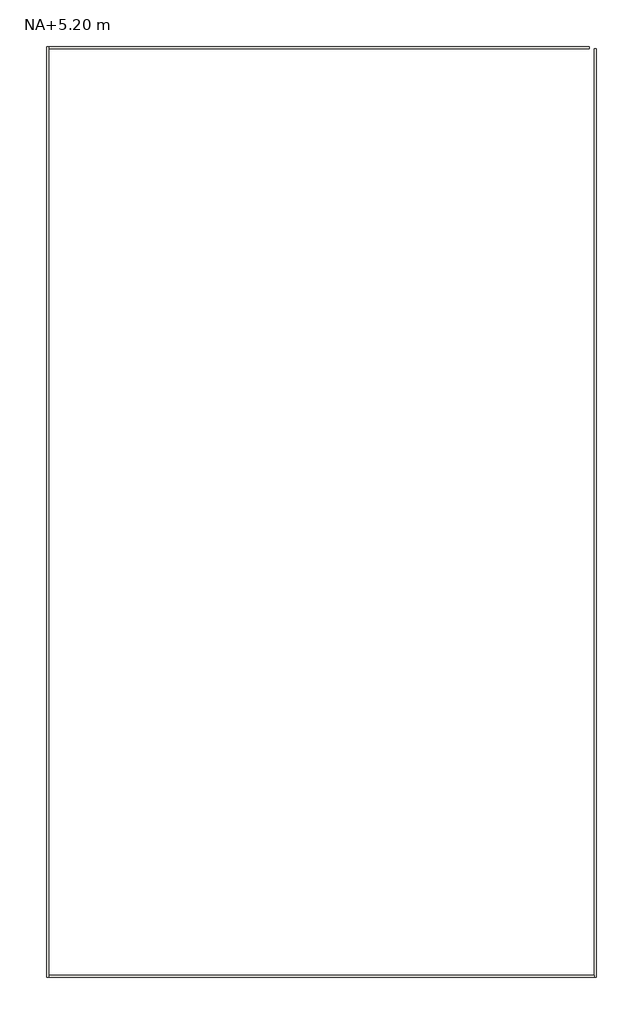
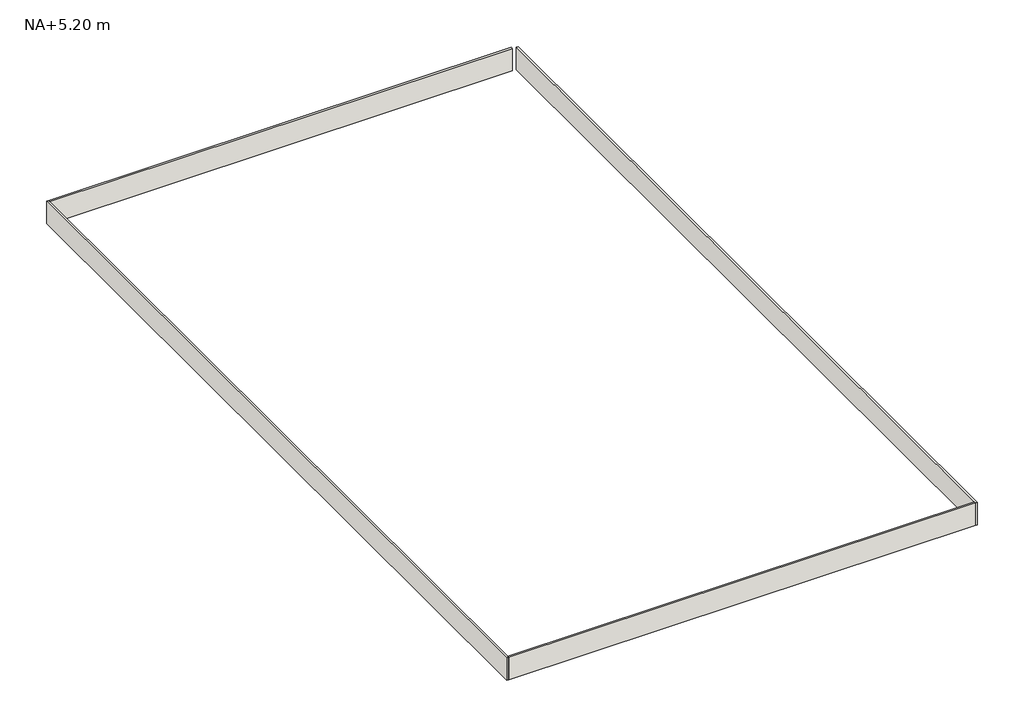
# One storey: 4 walls.
"""IFC4 building model written with IfcOpenShell, lengths in millimetres."""

import ifcopenshell
import ifcopenshell.guid

model = None  # the IFC model being written
_history = None  # IfcOwnerHistory: only IFC2X3 demands one
_inside = {}  # id of a spatial element -> (the spatial element, [elements in it])
_under = {}  # id of a project, library or spatial element -> (it, [spatial elements below it])
_declared = {}  # id of a project -> (the project, [libraries it declares])
_typed = {}  # id of a type object -> (the type object, [elements of that type])
_made_of = {}  # id of a material, layer set ... -> (it, [elements and type objects made of it])


def new_model(schema):
    """Start an empty IFC model of exactly this schema.

    Asked for "IFC4X3", IfcOpenShell would pick the latest addendum, in which some entities
    have other attributes; the version numbers below select the first issue.
    IFC2X3 requires an IfcOwnerHistory on every rooted entity: one is made here for all.
    """
    global model, _history
    if schema == "IFC4X3":
        model = ifcopenshell.file(schema_version=(4, 3, 0, 0))
    else:
        model = ifcopenshell.file(schema=schema)
    _inside.clear()
    _under.clear()
    _declared.clear()
    _typed.clear()
    _made_of.clear()
    _history = None
    if model.schema == "IFC2X3":
        org = make("IfcOrganization", Name="unknown")
        user = make(
            "IfcPersonAndOrganization",
            ThePerson=make("IfcPerson", FamilyName="unknown"),
            TheOrganization=org,
        )
        app = make(
            "IfcApplication",
            ApplicationDeveloper=org,
            Version="unknown",
            ApplicationFullName="unknown",
            ApplicationIdentifier="unknown",
        )
        _history = make(
            "IfcOwnerHistory",
            OwningUser=user,
            OwningApplication=app,
            ChangeAction="ADDED",
            CreationDate=0,
        )
    return model


def make(cls, **values):
    """One entity of the class cls with the attributes given. An attribute that is None is left unset."""
    return model.create_entity(
        cls, **{name: value for name, value in values.items() if value is not None}
    )


def rooted(cls, **values):
    """An entity with a GlobalId (a new one), such as an element, a storey or a relation."""
    return make(cls, GlobalId=ifcopenshell.guid.new(), OwnerHistory=_history, **values)


def si_unit(unit_type, name, prefix=None):
    """IfcSIUnit, for example si_unit("LENGTHUNIT", "METRE", prefix="MILLI")."""
    return make("IfcSIUnit", UnitType=unit_type, Prefix=prefix, Name=name)


def assignment(units):
    """IfcUnitAssignment: the units of a project."""
    return None if units is None else make("IfcUnitAssignment", Units=units)


def point(xyz):
    """IfcCartesianPoint."""
    return None if xyz is None else make("IfcCartesianPoint", Coordinates=xyz)


def direction(xyz):
    """IfcDirection."""
    return None if xyz is None else make("IfcDirection", DirectionRatios=xyz)


def frame(location, z_axis=None, x_axis=None):
    """IfcAxis2Placement3D, a coordinate frame: its origin and axes. An axis left out is left unset."""
    return make(
        "IfcAxis2Placement3D",
        Location=point(location),
        Axis=direction(z_axis),
        RefDirection=direction(x_axis),
    )


def origin():
    """The frame at (0, 0, 0) with its axes left unset."""
    return frame((0.0, 0.0, 0.0))


def place(relative_to, where):
    """IfcLocalPlacement: puts the frame where relative to a parent placement (None: the world)."""
    return make(
        "IfcLocalPlacement", PlacementRelTo=relative_to, RelativePlacement=where
    )


def context(
    kind, dimensions, precision=None, world=None, true_north=None, identifier=None
):
    """IfcGeometricRepresentationContext, for example the 3D "Model" context."""
    return make(
        "IfcGeometricRepresentationContext",
        ContextIdentifier=identifier,
        ContextType=kind,
        CoordinateSpaceDimension=dimensions,
        Precision=precision,
        WorldCoordinateSystem=world,
        TrueNorth=true_north,
    )


def project(units=None, contexts=None):
    """IfcProject with its units and contexts."""
    return rooted(
        "IfcProject",
        Name="project",
        RepresentationContexts=contexts,
        UnitsInContext=assignment(units),
    )


def spatial(cls, under=None, at=None, **own):
    """A site, building, storey or space (cls), placed at a placement, below another one or the project."""
    s = rooted(cls, ObjectPlacement=at, **own)
    if under is not None:
        _under.setdefault(under.id(), (under, []))[1].append(s)
    return s


def polyline(points):
    """IfcPolyline through the points."""
    return make("IfcPolyline", Points=[point(p) for p in points])


def outline(outer, holes=None, kind="AREA"):
    """IfcArbitraryClosedProfileDef: a profile drawn as a closed curve; with holes, ...WithVoids."""
    if holes is None:
        return make("IfcArbitraryClosedProfileDef", ProfileType=kind, OuterCurve=outer)
    return make(
        "IfcArbitraryProfileDefWithVoids",
        ProfileType=kind,
        OuterCurve=outer,
        InnerCurves=holes,
    )


def extrude(swept, where, along, depth):
    """IfcExtrudedAreaSolid: the profile swept, set in the frame where, extruded along a direction by depth."""
    return make(
        "IfcExtrudedAreaSolid",
        SweptArea=swept,
        Position=where,
        ExtrudedDirection=direction(along),
        Depth=depth,
    )


def faces_of(points, faces, orient=None, outer=None):
    """IfcFace entities. A face is a list of loops; a loop is a list of indices into points, from 0.

    orient and outer hold one flag for each loop. By default every Orientation is true, the
    first loop of a face is its IfcFaceOuterBound and the others are IfcFaceBound.
    """
    made = []
    for i, loops in enumerate(faces):
        bounds = []
        for j, loop in enumerate(loops):
            is_outer = j == 0 if outer is None else outer[i][j]
            bounds.append(
                make(
                    "IfcFaceOuterBound" if is_outer else "IfcFaceBound",
                    Bound=make("IfcPolyLoop", Polygon=[points[k] for k in loop]),
                    Orientation=True if orient is None else orient[i][j],
                )
            )
        made.append(make("IfcFace", Bounds=bounds))
    return made


def faceted_brep(points, faces, orient=None, outer=None, voids=None):
    """IfcFacetedBrep: a solid bounded by flat faces; with voids (closed shells), ...WithVoids."""
    shared = [point(p) for p in points]
    hull = make("IfcClosedShell", CfsFaces=faces_of(shared, faces, orient, outer))
    if voids is None:
        return make("IfcFacetedBrep", Outer=hull)
    return make(
        "IfcFacetedBrepWithVoids",
        Outer=hull,
        Voids=[
            make(cls, CfsFaces=faces_of(shared, fs, o, b)) for cls, fs, o, b in voids
        ],
    )


def shape(context_of_items, identifier, shape_type, items):
    """IfcShapeRepresentation: the items that make up one representation, for example the "Body"."""
    return make(
        "IfcShapeRepresentation",
        ContextOfItems=context_of_items,
        RepresentationIdentifier=identifier,
        RepresentationType=shape_type,
        Items=items,
    )


def made_of(thing, what):
    """Note that an element or type object is made of a material, layer set ...; save() writes the relation."""
    if what is not None:
        _made_of.setdefault(what.id(), (what, []))[1].append(thing)
    return thing


def element(
    cls,
    number,
    at=None,
    inside=None,
    cuts=None,
    type_object=None,
    material=None,
    context=None,
    identifier="Body",
    shape_type=None,
    held_by="IfcProductDefinitionShape",
    body=None,
    shapes=None,
    **own,
):
    """One element of the class cls, such as IfcWall. Its Tag is "e" and its number.

    at: its placement. inside: the storey or other place that contains it. cuts: it is an
    opening in that element (IfcRelVoidsElement). A single representation is given by context,
    identifier, shape_type and body (its items); several are given by shapes. held_by: the class
    of the entity that holds the representations. save() writes the other relations.
    """
    e = rooted(cls, Tag="e%d" % number, ObjectPlacement=at, **own)
    if body is not None:
        shapes = [shape(context, identifier, shape_type, body)]
    if shapes is not None:
        e.Representation = make(held_by, Representations=shapes)
    if inside is not None:
        _inside.setdefault(inside.id(), (inside, []))[1].append(e)
    if cuts is not None:
        rooted(
            "IfcRelVoidsElement", RelatingBuildingElement=cuts, RelatedOpeningElement=e
        )
    if type_object is not None:
        _typed.setdefault(type_object.id(), (type_object, []))[1].append(e)
    return made_of(e, material)


def aggregate(whole, parts):
    """IfcRelAggregates: a whole, such as a stair, and the parts it consists of."""
    return rooted("IfcRelAggregates", RelatingObject=whole, RelatedObjects=parts)


def save(model, path):
    """Write the relations noted so far, then the file.

    IfcRelAggregates (storeys below a building ...), IfcRelContainedInSpatialStructure (elements
    in a storey), IfcRelDefinesByType, IfcRelAssociatesMaterial and IfcRelDeclares: one each for
    every whole, place, type object, material and project.
    """
    for whole, parts in _under.values():
        aggregate(whole, parts)
    for where, things in _inside.values():
        rooted(
            "IfcRelContainedInSpatialStructure",
            RelatedElements=things,
            RelatingStructure=where,
        )
    for kind, things in _typed.values():
        rooted("IfcRelDefinesByType", RelatedObjects=things, RelatingType=kind)
    for what, things in _made_of.values():
        rooted("IfcRelAssociatesMaterial", RelatedObjects=things, RelatingMaterial=what)
    for by, libraries in _declared.values():
        rooted("IfcRelDeclares", RelatingContext=by, RelatedDefinitions=libraries)
    model.write(path)


model = new_model("IFC4")

# Units and contexts
model_context = context("Model", 3, world=origin())
ifc_project = project(units=[si_unit("LENGTHUNIT", "METRE", prefix="MILLI")], contexts=[model_context])

# Site, building, storey
site = spatial("IfcSite", under=ifc_project)
building = spatial("IfcBuilding", under=site)
storey = spatial("IfcBuildingStorey", under=building, Name="NA+5.20 m", Elevation=5200.0)

# Walls
placement = place(None, origin())
element("IfcWall", 1, ObjectType="HECM - Acabado de pintura blanca", at=placement, inside=storey, context=model_context, shape_type="Brep", body=[
    faceted_brep([(3877.3188918, -8187.1867862, 4900.0), (3877.3188918, 1862.8132138, 4900.0), (3877.3188918, 1862.8132138, 5200.0), (3877.3188918, -8187.1867862, 5200.0), (3852.3188918, -8187.1867862, 4900.0), (3852.3188918, -8187.1867862, 5200.0), (3852.3188918, -8162.1867862, 5200.0), (3852.3188918, 1862.8132138, 5200.0), (3852.3188918, 1862.8132138, 4900.0), (3852.3188918, -8162.1867862, 4900.0)], [[[0, 1, 2, 3]], [[4, 5, 6, 7, 8, 9]], [[1, 0, 4, 9, 8]], [[2, 1, 8, 7]], [[3, 2, 7, 6, 5]], [[0, 3, 5, 4]]]),
])
element("IfcWall", 2, ObjectType="HECM - Acabado de pintura blanca", at=placement, inside=storey, context=model_context, shape_type="Brep", body=[
    faceted_brep([(-2047.6811082, -8187.1867862, 4900.0), (-2047.6811082, -8162.1867862, 4900.0), (-2047.6811082, 1862.8132138, 4900.0), (-2047.6811082, 1887.8132138, 4900.0), (-2047.6811082, 1887.8132138, 5200.0), (-2047.6811082, 1862.8132138, 5200.0), (-2047.6811082, -8162.1867862, 5200.0), (-2047.6811082, -8187.1867862, 5200.0), (-2072.6811082, -8187.1867862, 4900.0), (-2072.6811082, -8187.1867862, 5200.0), (-2072.6811082, 1887.8132138, 5200.0), (-2072.6811082, 1887.8132138, 4900.0)], [[[0, 1, 2, 3, 4, 5, 6, 7]], [[8, 9, 10, 11]], [[3, 2, 1, 0, 8, 11]], [[7, 6, 5, 4, 10, 9]], [[4, 3, 11, 10]], [[0, 7, 9, 8]]]),
])
element("IfcWall", 3, ObjectType="HECM - Acabado de pintura blanca", at=placement, inside=storey, context=model_context, shape_type="SweptSolid", body=[
    extrude(outline(polyline([(3802.3188918, 1862.8132138), (-2047.6811082, 1862.8132138), (-2047.6811082, 1887.8132138), (3802.3188918, 1887.8132138), (3802.3188918, 1862.8132138)])), frame((0.0, 0.0, 4900.0), z_axis=(0.0, 0.0, 1.0), x_axis=(1.0, 0.0, 0.0)), (0.0, 0.0, 1.0), 300.0),
])
element("IfcWall", 4, ObjectType="HECM - Acabado de pintura blanca", at=placement, inside=storey, context=model_context, shape_type="SweptSolid", body=[
    extrude(outline(polyline([(3852.3188918, -8187.1867862), (-2047.6811082, -8187.1867862), (-2047.6811082, -8162.1867862), (3852.3188918, -8162.1867862), (3852.3188918, -8187.1867862)])), frame((0.0, 0.0, 4900.0), z_axis=(0.0, 0.0, 1.0), x_axis=(1.0, 0.0, 0.0)), (0.0, 0.0, 1.0), 300.0),
])

save(model, "model.ifc")
